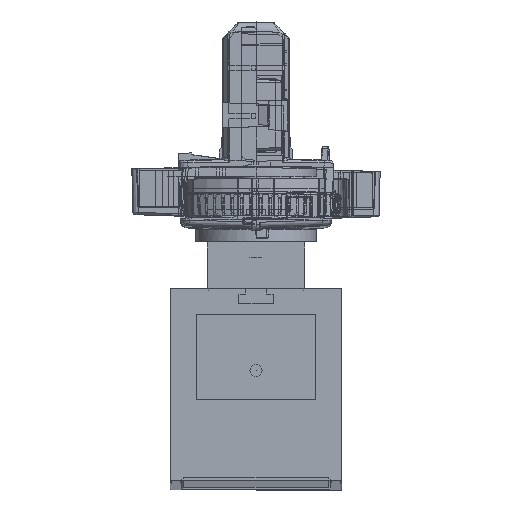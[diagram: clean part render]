
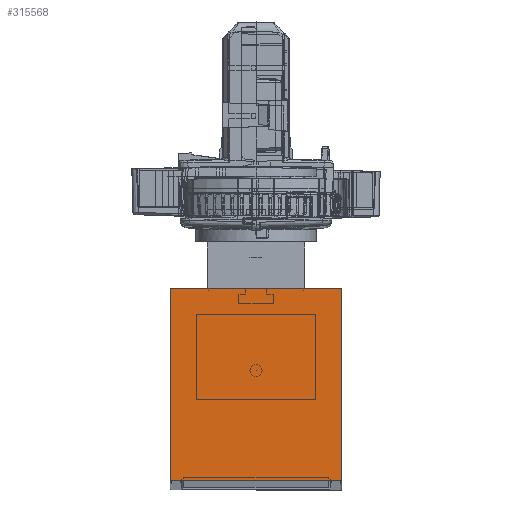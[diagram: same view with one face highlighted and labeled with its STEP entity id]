
A CAD part, top view. The second image highlights one B-rep face of the part: STEP entity #315568.
In plain terms, the highlighted planar face has unit normal (0, 0, 1).
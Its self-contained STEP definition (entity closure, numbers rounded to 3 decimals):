
#8119 = VECTOR ( 'NONE', #324377, 1000. ) ;
#14957 = CARTESIAN_POINT ( 'NONE',  ( -28.601, -18.75, 3. ) ) ;
#17552 = CARTESIAN_POINT ( 'NONE',  ( -28.601, 20.751, 3. ) ) ;
#51941 = ORIENTED_EDGE ( 'NONE', *, *, #70322, .F. ) ;
#60642 = CARTESIAN_POINT ( 'NONE',  ( 6.6, 20.751, 3. ) ) ;
#69405 = VERTEX_POINT ( 'NONE', #83725 ) ;
#70322 = EDGE_CURVE ( 'NONE', #136560, #69405, #149858, .T. ) ;
#80097 = FACE_OUTER_BOUND ( 'NONE', #298578, .T. ) ;
#83725 = CARTESIAN_POINT ( 'NONE',  ( 6.6, -18.75, 3. ) ) ;
#83817 = DIRECTION ( 'NONE',  ( 1., 0., 0. ) ) ;
#88457 = CARTESIAN_POINT ( 'NONE',  ( -28.601, 20.751, 3. ) ) ;
#98301 = CARTESIAN_POINT ( 'NONE',  ( -28.601, 20.751, 3. ) ) ;
#122487 = ORIENTED_EDGE ( 'NONE', *, *, #191663, .F. ) ;
#123047 = LINE ( 'NONE', #98301, #333141 ) ;
#136560 = VERTEX_POINT ( 'NONE', #195806 ) ;
#143457 = EDGE_CURVE ( 'NONE', #314285, #184686, #232750, .T. ) ;
#149858 = LINE ( 'NONE', #60642, #8119 ) ;
#184686 = VERTEX_POINT ( 'NONE', #224536 ) ;
#191663 = EDGE_CURVE ( 'NONE', #314285, #136560, #123047, .T. ) ;
#195806 = CARTESIAN_POINT ( 'NONE',  ( 6.6, 20.751, 3. ) ) ;
#203412 = CARTESIAN_POINT ( 'NONE',  ( 0., 0., 3. ) ) ;
#204256 = DIRECTION ( 'NONE',  ( 0., -1., 0. ) ) ;
#210849 = AXIS2_PLACEMENT_3D ( 'NONE', #203412, #311642, #83817 ) ;
#219871 = LINE ( 'NONE', #14957, #291456 ) ;
#224536 = CARTESIAN_POINT ( 'NONE',  ( -28.601, -18.75, 3. ) ) ;
#232750 = LINE ( 'NONE', #88457, #263290 ) ;
#263290 = VECTOR ( 'NONE', #204256, 1000. ) ;
#278119 = EDGE_CURVE ( 'NONE', #184686, #69405, #219871, .T. ) ;
#284057 = ORIENTED_EDGE ( 'NONE', *, *, #143457, .T. ) ;
#291456 = VECTOR ( 'NONE', #369607, 1000. ) ;
#298578 = EDGE_LOOP ( 'NONE', ( #284057, #336004, #51941, #122487 ) ) ;
#299508 = DIRECTION ( 'NONE',  ( 1., 0., 0. ) ) ;
#311642 = DIRECTION ( 'NONE',  ( 0., 0., 1. ) ) ;
#314285 = VERTEX_POINT ( 'NONE', #17552 ) ;
#315568 = ADVANCED_FACE ( 'NONE', ( #80097 ), #341996, .T. ) ;
#324377 = DIRECTION ( 'NONE',  ( 0., -1., 0. ) ) ;
#333141 = VECTOR ( 'NONE', #299508, 1000. ) ;
#336004 = ORIENTED_EDGE ( 'NONE', *, *, #278119, .T. ) ;
#341996 = PLANE ( 'NONE',  #210849 ) ;
#369607 = DIRECTION ( 'NONE',  ( 1., 0., 0. ) ) ;
